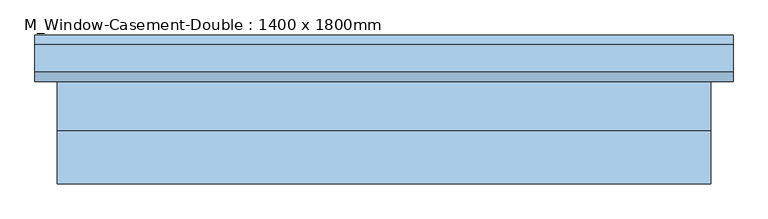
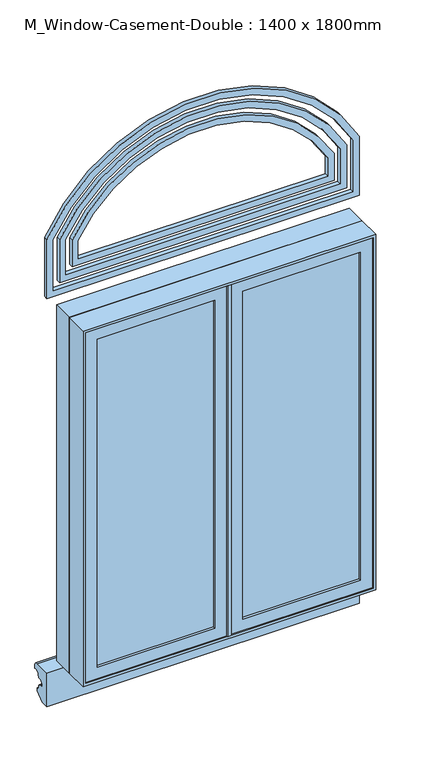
"""IFC4 building model written with IfcOpenShell, lengths in millimetres: window geometry, M_Window-Casement-Double : 1400 x 1800mm."""

import ifcopenshell
import ifcopenshell.guid

model = None  # the IFC model being written
_history = None  # IfcOwnerHistory: only IFC2X3 demands one
_inside = {}  # id of a spatial element -> (the spatial element, [elements in it])
_under = {}  # id of a project, library or spatial element -> (it, [spatial elements below it])
_declared = {}  # id of a project -> (the project, [libraries it declares])
_typed = {}  # id of a type object -> (the type object, [elements of that type])
_made_of = {}  # id of a material, layer set ... -> (it, [elements and type objects made of it])


def new_model(schema):
    """Start an empty IFC model of exactly this schema.

    Asked for "IFC4X3", IfcOpenShell would pick the latest addendum, in which some entities
    have other attributes; the version numbers below select the first issue.
    IFC2X3 requires an IfcOwnerHistory on every rooted entity: one is made here for all.
    """
    global model, _history
    if schema == "IFC4X3":
        model = ifcopenshell.file(schema_version=(4, 3, 0, 0))
    else:
        model = ifcopenshell.file(schema=schema)
    _inside.clear()
    _under.clear()
    _declared.clear()
    _typed.clear()
    _made_of.clear()
    _history = None
    if model.schema == "IFC2X3":
        org = make("IfcOrganization", Name="unknown")
        user = make(
            "IfcPersonAndOrganization",
            ThePerson=make("IfcPerson", FamilyName="unknown"),
            TheOrganization=org,
        )
        app = make(
            "IfcApplication",
            ApplicationDeveloper=org,
            Version="unknown",
            ApplicationFullName="unknown",
            ApplicationIdentifier="unknown",
        )
        _history = make(
            "IfcOwnerHistory",
            OwningUser=user,
            OwningApplication=app,
            ChangeAction="ADDED",
            CreationDate=0,
        )
    return model


def make(cls, **values):
    """One entity of the class cls with the attributes given. An attribute that is None is left unset."""
    return model.create_entity(
        cls, **{name: value for name, value in values.items() if value is not None}
    )


def rooted(cls, **values):
    """An entity with a GlobalId (a new one), such as an element, a storey or a relation."""
    return make(cls, GlobalId=ifcopenshell.guid.new(), OwnerHistory=_history, **values)


def si_unit(unit_type, name, prefix=None):
    """IfcSIUnit, for example si_unit("LENGTHUNIT", "METRE", prefix="MILLI")."""
    return make("IfcSIUnit", UnitType=unit_type, Prefix=prefix, Name=name)


def assignment(units):
    """IfcUnitAssignment: the units of a project."""
    return None if units is None else make("IfcUnitAssignment", Units=units)


def point(xyz):
    """IfcCartesianPoint."""
    return None if xyz is None else make("IfcCartesianPoint", Coordinates=xyz)


def direction(xyz):
    """IfcDirection."""
    return None if xyz is None else make("IfcDirection", DirectionRatios=xyz)


def frame(location, z_axis=None, x_axis=None):
    """IfcAxis2Placement3D, a coordinate frame: its origin and axes. An axis left out is left unset."""
    return make(
        "IfcAxis2Placement3D",
        Location=point(location),
        Axis=direction(z_axis),
        RefDirection=direction(x_axis),
    )


def frame_2d(location, x_axis=None):
    """IfcAxis2Placement2D, a coordinate frame in the plane: its origin and x axis."""
    return make(
        "IfcAxis2Placement2D", Location=point(location), RefDirection=direction(x_axis)
    )


def origin():
    """The frame at (0, 0, 0) with its axes left unset."""
    return frame((0.0, 0.0, 0.0))


def place(relative_to, where):
    """IfcLocalPlacement: puts the frame where relative to a parent placement (None: the world)."""
    return make(
        "IfcLocalPlacement", PlacementRelTo=relative_to, RelativePlacement=where
    )


def context(
    kind, dimensions, precision=None, world=None, true_north=None, identifier=None
):
    """IfcGeometricRepresentationContext, for example the 3D "Model" context."""
    return make(
        "IfcGeometricRepresentationContext",
        ContextIdentifier=identifier,
        ContextType=kind,
        CoordinateSpaceDimension=dimensions,
        Precision=precision,
        WorldCoordinateSystem=world,
        TrueNorth=true_north,
    )


def project(units=None, contexts=None):
    """IfcProject with its units and contexts."""
    return rooted(
        "IfcProject",
        Name="project",
        RepresentationContexts=contexts,
        UnitsInContext=assignment(units),
    )


def spatial(cls, under=None, at=None, **own):
    """A site, building, storey or space (cls), placed at a placement, below another one or the project."""
    s = rooted(cls, ObjectPlacement=at, **own)
    if under is not None:
        _under.setdefault(under.id(), (under, []))[1].append(s)
    return s


def polyline(points):
    """IfcPolyline through the points."""
    return make("IfcPolyline", Points=[point(p) for p in points])


def circle_curve(where, radius):
    """IfcCircle in the frame where."""
    return make("IfcCircle", Position=where, Radius=radius)


def trimmed(basis, trim1, trim2, sense, master):
    """IfcTrimmedCurve: the piece of a basis curve between two trims."""
    return make(
        "IfcTrimmedCurve",
        BasisCurve=basis,
        Trim1=trim1,
        Trim2=trim2,
        SenseAgreement=sense,
        MasterRepresentation=master,
    )


def segment(curve, same_sense, transition):
    """IfcCompositeCurveSegment."""
    return make(
        "IfcCompositeCurveSegment",
        Transition=transition,
        SameSense=same_sense,
        ParentCurve=curve,
    )


def composite_curve(segments, self_intersect=None):
    """IfcCompositeCurve: segments joined end to end."""
    return make("IfcCompositeCurve", Segments=segments, SelfIntersect=self_intersect)


def outline(outer, holes=None, kind="AREA"):
    """IfcArbitraryClosedProfileDef: a profile drawn as a closed curve; with holes, ...WithVoids."""
    if holes is None:
        return make("IfcArbitraryClosedProfileDef", ProfileType=kind, OuterCurve=outer)
    return make(
        "IfcArbitraryProfileDefWithVoids",
        ProfileType=kind,
        OuterCurve=outer,
        InnerCurves=holes,
    )


def extrude(swept, where, along, depth):
    """IfcExtrudedAreaSolid: the profile swept, set in the frame where, extruded along a direction by depth."""
    return make(
        "IfcExtrudedAreaSolid",
        SweptArea=swept,
        Position=where,
        ExtrudedDirection=direction(along),
        Depth=depth,
    )


def faces_of(points, faces, orient=None, outer=None):
    """IfcFace entities. A face is a list of loops; a loop is a list of indices into points, from 0.

    orient and outer hold one flag for each loop. By default every Orientation is true, the
    first loop of a face is its IfcFaceOuterBound and the others are IfcFaceBound.
    """
    made = []
    for i, loops in enumerate(faces):
        bounds = []
        for j, loop in enumerate(loops):
            is_outer = j == 0 if outer is None else outer[i][j]
            bounds.append(
                make(
                    "IfcFaceOuterBound" if is_outer else "IfcFaceBound",
                    Bound=make("IfcPolyLoop", Polygon=[points[k] for k in loop]),
                    Orientation=True if orient is None else orient[i][j],
                )
            )
        made.append(make("IfcFace", Bounds=bounds))
    return made


def faceted_brep(points, faces, orient=None, outer=None, voids=None):
    """IfcFacetedBrep: a solid bounded by flat faces; with voids (closed shells), ...WithVoids."""
    shared = [point(p) for p in points]
    hull = make("IfcClosedShell", CfsFaces=faces_of(shared, faces, orient, outer))
    if voids is None:
        return make("IfcFacetedBrep", Outer=hull)
    return make(
        "IfcFacetedBrepWithVoids",
        Outer=hull,
        Voids=[
            make(cls, CfsFaces=faces_of(shared, fs, o, b)) for cls, fs, o, b in voids
        ],
    )


def shape(context_of_items, identifier, shape_type, items):
    """IfcShapeRepresentation: the items that make up one representation, for example the "Body"."""
    return make(
        "IfcShapeRepresentation",
        ContextOfItems=context_of_items,
        RepresentationIdentifier=identifier,
        RepresentationType=shape_type,
        Items=items,
    )


def source(mapping_origin, context_of_items, identifier, shape_type, items):
    """IfcRepresentationMap: a shape defined once, which mapped items show again and again."""
    return make(
        "IfcRepresentationMap",
        MappingOrigin=mapping_origin,
        MappedRepresentation=shape(context_of_items, identifier, shape_type, items),
    )


def transform(
    local_origin,
    x_axis=None,
    y_axis=None,
    z_axis=None,
    scale=None,
    scale2=None,
    scale3=None,
    uniform=True,
):
    """IfcCartesianTransformationOperator3D, or its non-uniform kind. x_axis, y_axis, z_axis: its Axis1, 2, 3."""
    if uniform:
        return make(
            "IfcCartesianTransformationOperator3D",
            Axis1=direction(x_axis),
            Axis2=direction(y_axis),
            LocalOrigin=point(local_origin),
            Scale=scale,
            Axis3=direction(z_axis),
        )
    return make(
        "IfcCartesianTransformationOperator3DnonUniform",
        Axis1=direction(x_axis),
        Axis2=direction(y_axis),
        LocalOrigin=point(local_origin),
        Scale=scale,
        Axis3=direction(z_axis),
        Scale2=scale2,
        Scale3=scale3,
    )


def mapped(mapping_source, mapping_target):
    """IfcMappedItem: shows the shape of a source again, moved by a transform."""
    return make(
        "IfcMappedItem", MappingSource=mapping_source, MappingTarget=mapping_target
    )


def made_of(thing, what):
    """Note that an element or type object is made of a material, layer set ...; save() writes the relation."""
    if what is not None:
        _made_of.setdefault(what.id(), (what, []))[1].append(thing)
    return thing


def element(
    cls,
    number,
    at=None,
    inside=None,
    cuts=None,
    type_object=None,
    material=None,
    context=None,
    identifier="Body",
    shape_type=None,
    held_by="IfcProductDefinitionShape",
    body=None,
    shapes=None,
    **own,
):
    """One element of the class cls, such as IfcWall. Its Tag is "e" and its number.

    at: its placement. inside: the storey or other place that contains it. cuts: it is an
    opening in that element (IfcRelVoidsElement). A single representation is given by context,
    identifier, shape_type and body (its items); several are given by shapes. held_by: the class
    of the entity that holds the representations. save() writes the other relations.
    """
    e = rooted(cls, Tag="e%d" % number, ObjectPlacement=at, **own)
    if body is not None:
        shapes = [shape(context, identifier, shape_type, body)]
    if shapes is not None:
        e.Representation = make(held_by, Representations=shapes)
    if inside is not None:
        _inside.setdefault(inside.id(), (inside, []))[1].append(e)
    if cuts is not None:
        rooted(
            "IfcRelVoidsElement", RelatingBuildingElement=cuts, RelatedOpeningElement=e
        )
    if type_object is not None:
        _typed.setdefault(type_object.id(), (type_object, []))[1].append(e)
    return made_of(e, material)


def aggregate(whole, parts):
    """IfcRelAggregates: a whole, such as a stair, and the parts it consists of."""
    return rooted("IfcRelAggregates", RelatingObject=whole, RelatedObjects=parts)


def save(model, path):
    """Write the relations noted so far, then the file.

    IfcRelAggregates (storeys below a building ...), IfcRelContainedInSpatialStructure (elements
    in a storey), IfcRelDefinesByType, IfcRelAssociatesMaterial and IfcRelDeclares: one each for
    every whole, place, type object, material and project.
    """
    for whole, parts in _under.values():
        aggregate(whole, parts)
    for where, things in _inside.values():
        rooted(
            "IfcRelContainedInSpatialStructure",
            RelatedElements=things,
            RelatingStructure=where,
        )
    for kind, things in _typed.values():
        rooted("IfcRelDefinesByType", RelatedObjects=things, RelatingType=kind)
    for what, things in _made_of.values():
        rooted("IfcRelAssociatesMaterial", RelatedObjects=things, RelatingMaterial=what)
    for by, libraries in _declared.values():
        rooted("IfcRelDeclares", RelatingContext=by, RelatedDefinitions=libraries)
    model.write(path)


def m_window_casement_double_1400_x_1800mm_eb8f2d9a(model_context):
    return source(origin(), model_context, "Body", "SolidModel", [
        faceted_brep([(9.525, -119.05, 2687.3), (9.525, -68.25, 2687.3), (-9.525, -68.25, 2687.3), (-9.525, -119.05, 2687.3), (9.525, -119.05, 912.7), (-9.525, -119.05, 912.7), (-9.525, -68.25, 912.7), (9.525, -68.25, 912.7), (-9.525, -68.25, 2668.25), (-9.525, -68.25, 931.75), (-30.1625, -68.25, 2668.25), (-30.1625, -68.25, 931.75), (-30.1625, -4.75, 2668.25), (-30.1625, -4.75, 931.75), (30.1625, -4.75, 2668.25), (30.1625, -4.75, 931.75), (30.1625, -68.25, 2668.25), (30.1625, -68.25, 931.75), (9.525, -68.25, 2668.25), (9.525, -68.25, 931.75)], [[[0, 1, 2, 3]], [[4, 5, 6, 7]], [[3, 5, 4, 0]], [[2, 8, 9, 6, 5, 3]], [[8, 10, 11, 9]], [[10, 12, 13, 11]], [[12, 14, 15, 13]], [[14, 16, 17, 15]], [[16, 18, 19, 17]], [[0, 4, 7, 19, 18, 1]], [[8, 2, 1, 18]], [[19, 7, 6, 9]], [[9, 11, 13, 15, 17, 19]], [[18, 16, 14, 12, 10, 8]]]),
        extrude(outline(polyline([(-66.675, -100.0), (-630.15, -100.0), (-630.15, -93.65), (-66.675, -93.65), (-66.675, -100.0)])), frame((0.0, 0.0, 969.85), z_axis=(0.0, 0.0, 1.0), x_axis=(1.0, 0.0, 0.0)), (0.0, 0.0, 1.0), 1660.3),
        extrude(outline(polyline([(-630.15, -80.95), (-66.675, -80.95), (-66.675, -87.3), (-630.15, -87.3), (-630.15, -80.95)])), frame((0.0, 0.0, 969.85), z_axis=(0.0, 0.0, 1.0), x_axis=(1.0, 0.0, 0.0)), (0.0, 0.0, 1.0), 1660.3),
        extrude(outline(polyline([(630.15, -100.0), (66.675, -100.0), (66.675, -93.65), (630.15, -93.65), (630.15, -100.0)])), frame((0.0, 0.0, 969.85), z_axis=(0.0, 0.0, 1.0), x_axis=(1.0, 0.0, 0.0)), (0.0, 0.0, 1.0), 1660.3),
        extrude(outline(polyline([(66.675, -80.95), (630.15, -80.95), (630.15, -87.3), (66.675, -87.3), (66.675, -80.95)])), frame((0.0, 0.0, 969.85), z_axis=(0.0, 0.0, 1.0), x_axis=(1.0, 0.0, 0.0)), (0.0, 0.0, 1.0), 1660.3),
        extrude(outline(polyline([(2687.3, -9.525), (2687.3, -687.3), (912.7, -687.3), (912.7, -9.525), (2687.3, -9.525)]), holes=[polyline([(2630.15, -630.15), (2630.15, -66.675), (969.85, -66.675), (969.85, -630.15), (2630.15, -630.15)])]), frame((0.0, -112.7, 0.0), z_axis=(0.0, 1.0, 0.0), x_axis=(0.0, 0.0, 1.0)), (0.0, 0.0, 1.0), 44.45),
        extrude(outline(polyline([(912.7, 9.525), (912.7, 687.3), (2687.3, 687.3), (2687.3, 9.525), (912.7, 9.525)]), holes=[polyline([(969.85, 630.15), (969.85, 66.675), (2630.15, 66.675), (2630.15, 630.15), (969.85, 630.15)])]), frame((0.0, -112.7, 0.0), z_axis=(0.0, 1.0, 0.0), x_axis=(0.0, 0.0, 1.0)), (0.0, 0.0, 1.0), 44.45),
        extrude(outline(polyline([(2700.0, -700.0), (900.0, -700.0), (900.0, 700.0), (2700.0, 700.0), (2700.0, -700.0)]), holes=[polyline([(2680.95, 680.95), (919.05, 680.95), (919.05, -680.95), (2680.95, -680.95), (2680.95, 680.95)])]), frame((0.0, -4.75, 0.0), z_axis=(0.0, 1.0, 0.0), x_axis=(0.0, 0.0, 1.0)), (0.0, 0.0, 1.0), 104.75),
        faceted_brep([(668.25, -68.25, 2668.25), (-668.25, -68.25, 2668.25), (-668.25, -4.75, 2668.25), (668.25, -4.75, 2668.25), (687.3, -119.05, 2687.3), (-687.3, -119.05, 2687.3), (-687.3, -68.25, 2687.3), (687.3, -68.25, 2687.3), (700.0, -4.75, 2700.0), (-700.0, -4.75, 2700.0), (-700.0, -119.05, 2700.0), (700.0, -119.05, 2700.0), (-668.25, -68.25, 931.75), (-668.25, -4.75, 931.75), (-687.3, -119.05, 912.7), (-687.3, -68.25, 912.7), (-700.0, -4.75, 900.0), (-700.0, -119.05, 900.0), (668.25, -68.25, 931.75), (668.25, -4.75, 931.75), (687.3, -119.05, 912.7), (687.3, -68.25, 912.7), (700.0, -4.75, 900.0), (700.0, -119.05, 900.0)], [[[0, 1, 2, 3]], [[4, 5, 6, 7]], [[8, 9, 10, 11]], [[1, 12, 13, 2]], [[5, 14, 15, 6]], [[9, 16, 17, 10]], [[12, 18, 19, 13]], [[14, 20, 21, 15]], [[16, 22, 23, 17]], [[9, 8, 22, 16], [3, 2, 13, 19]], [[18, 0, 3, 19]], [[7, 6, 15, 21], [1, 0, 18, 12]], [[20, 4, 7, 21]], [[22, 8, 11, 23]], [[11, 10, 17, 23], [5, 4, 20, 14]]]),
        extrude(outline(composite_curve([segment(polyline([(2747.3, -747.3), (2747.3, 747.3), (3047.3, 747.3)]), True, "CONTINUOUS"), segment(trimmed(circle_curve(frame_2d((2662.8350499, 0.0)), 840.3990647), [point((3047.3, 747.3))], [point((3047.3, -747.3))], False, "CARTESIAN"), True, "CONTINUOUS"), segment(polyline([(3047.3, -747.3), (2747.3, -747.3)]), True, "CONTINUOUS")], self_intersect=False), holes=[composite_curve([segment(trimmed(circle_curve(frame_2d((2662.8350499, 0.0)), 808.7834124), [point((3036.4810296, -717.3))], [point((3036.4810296, 717.3))], True, "CARTESIAN"), True, "CONTINUOUS"), segment(polyline([(3036.4810296, 717.3), (2777.3, 717.3), (2777.3, -717.3), (3036.4810296, -717.3)]), True, "CONTINUOUS")], self_intersect=False)]), frame((0.0, 100.0, 0.0), z_axis=(0.0, 1.0, 0.0), x_axis=(0.0, 0.0, 1.0)), (0.0, 0.0, 1.0), 20.0),
        extrude(outline(composite_curve([segment(polyline([(3025.3393098, -687.3), (2807.3, -687.3), (2807.3, 687.3), (3025.3393098, 687.3)]), True, "CONTINUOUS"), segment(trimmed(circle_curve(frame_2d((2662.8350499, 0.0)), 777.039657), [point((3025.3393098, 687.3))], [point((3025.3393098, -687.3))], False, "CARTESIAN"), True, "CONTINUOUS")], self_intersect=False), holes=[composite_curve([segment(trimmed(circle_curve(frame_2d((2662.8350499, 0.0)), 745.1514267), [point((3013.8441078, -657.3))], [point((3013.8441078, 657.3))], True, "CARTESIAN"), True, "CONTINUOUS"), segment(polyline([(3013.8441078, 657.3), (2837.3, 657.3), (2837.3, -657.3), (3013.8441078, -657.3)]), True, "CONTINUOUS")], self_intersect=False)]), frame((0.0, 100.0, 0.0), z_axis=(0.0, 1.0, 0.0), x_axis=(0.0, 0.0, 1.0)), (0.0, 0.0, 1.0), 20.0),
        extrude(outline(composite_curve([segment(polyline([(3001.95948, -627.3), (2867.3, -627.3), (2867.3, 627.3), (3001.95948, 627.3)]), True, "CONTINUOUS"), segment(trimmed(circle_curve(frame_2d((2662.8350499, 0.0)), 713.0993403), [point((3001.95948, 627.3))], [point((3001.95948, -627.3))], False, "CARTESIAN"), True, "CONTINUOUS")], self_intersect=False), holes=[composite_curve([segment(trimmed(circle_curve(frame_2d((2662.8350499, 0.0)), 680.8602569), [point((2989.6429436, -597.3))], [point((2989.6429436, 597.3))], True, "CARTESIAN"), True, "CONTINUOUS"), segment(polyline([(2989.6429436, 597.3), (2897.3, 597.3), (2897.3, -597.3), (2989.6429436, -597.3)]), True, "CONTINUOUS")], self_intersect=False)]), frame((0.0, 100.0, 0.0), z_axis=(0.0, 1.0, 0.0), x_axis=(0.0, 0.0, 1.0)), (0.0, 0.0, 1.0), 20.0),
        extrude(outline(composite_curve([segment(trimmed(circle_curve(frame_2d((180.0, 832.7)), 20.0), [point((180.0, 852.7))], [point((200.0, 832.7))], False, "CARTESIAN"), True, "CONTINUOUS"), segment(polyline([(200.0, 832.7), (200.0, 817.7), (195.0, 817.7)]), True, "CONTINUOUS"), segment(trimmed(circle_curve(frame_2d((195.0, 792.7)), 25.0), [point((195.0, 817.7))], [point((170.0, 792.7))], True, "CARTESIAN"), True, "CONTINUOUS"), segment(polyline([(170.0, 792.7), (170.0, 787.7), (160.0, 787.7)]), True, "CONTINUOUS"), segment(trimmed(circle_curve(frame_2d((160.0, 767.7)), 20.0), [point((160.0, 787.7))], [point((140.0, 767.7))], True, "CARTESIAN"), True, "CONTINUOUS"), segment(polyline([(140.0, 767.7), (140.0, 757.7), (155.0, 757.7)]), True, "CONTINUOUS"), segment(trimmed(circle_curve(frame_2d((155.0, 742.7)), 15.0), [point((155.0, 757.7))], [point((170.0, 742.7))], False, "CARTESIAN"), True, "CONTINUOUS"), segment(polyline([(170.0, 742.7), (170.0, 732.7), (172.5252258, 732.7)]), True, "CONTINUOUS"), segment(trimmed(circle_curve(frame_2d((172.5252258, 722.7)), 10.0), [point((172.5252258, 732.7))], [point((178.9531019, 715.0395556))], False, "CARTESIAN"), True, "CONTINUOUS"), segment(polyline([(178.9531019, 715.0395556), (140.0, 682.3540221), (100.0, 682.3540221), (100.0, 852.7), (180.0, 852.7)]), True, "CONTINUOUS")], self_intersect=False)), frame((-747.3, 0.0, 0.0), z_axis=(1.0, 0.0, 0.0), x_axis=(0.0, 1.0, 0.0)), (0.0, 0.0, 1.0), 1494.6),
    ])


if __name__ == "__main__":
    model = new_model("IFC4")
    model_context = context("Model", 3, world=origin())
    ifc_project = project(units=[si_unit("LENGTHUNIT", "METRE", prefix="MILLI")], contexts=[model_context])
    site = spatial("IfcSite", under=ifc_project)
    building = spatial("IfcBuilding", under=site)
    placement = place(None, origin())
    m_window_casement_double_1400_x_1800mm_shape = m_window_casement_double_1400_x_1800mm_eb8f2d9a(model_context)
    element("IfcWindow", 1, ObjectType="M_Window-Casement-Double : 1400 x 1800mm", at=placement, inside=building, context=model_context, shape_type="MappedRepresentation", body=[
        mapped(m_window_casement_double_1400_x_1800mm_shape, transform((0.0, 0.0, 0.0), x_axis=(1.0, 0.0, 0.0), y_axis=(0.0, 1.0, 0.0), z_axis=(0.0, 0.0, 1.0))),
    ])
    save(model, "model.ifc")
